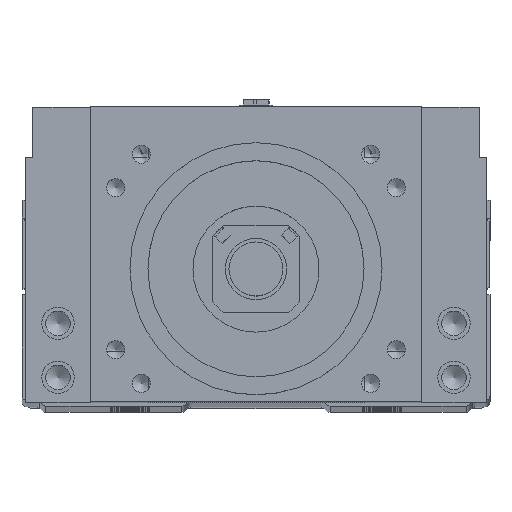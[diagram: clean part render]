
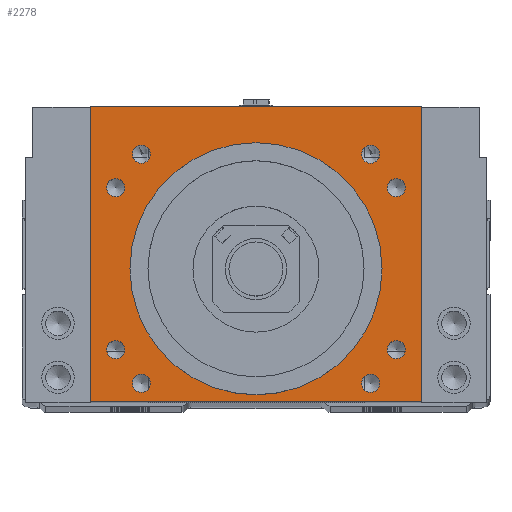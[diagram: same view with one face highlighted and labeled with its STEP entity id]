
A CAD part, top view. The second image highlights one B-rep face of the part: STEP entity #2278.
In plain terms, the highlighted planar face has unit normal (0, 0, 1).
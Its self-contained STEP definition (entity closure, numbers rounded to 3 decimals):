
#2278=ADVANCED_FACE('',(#6231,#6232,#6233,#6234,#6235,#6236,#6237,#6238,
#6239,#6240),#3222,.T.);
#3222=PLANE('',#16457);
#3821=LINE('',#22386,#5029);
#3826=LINE('',#22400,#5034);
#3831=LINE('',#22408,#5039);
#3836=LINE('',#22417,#5044);
#5029=VECTOR('',#18065,1.);
#5034=VECTOR('',#18076,1.);
#5039=VECTOR('',#18087,1.);
#5044=VECTOR('',#18094,1.);
#6231=FACE_BOUND('',#7085,.T.);
#6232=FACE_BOUND('',#7086,.T.);
#6233=FACE_BOUND('',#7087,.T.);
#6234=FACE_BOUND('',#7088,.T.);
#6235=FACE_BOUND('',#7089,.T.);
#6236=FACE_BOUND('',#7090,.T.);
#6237=FACE_BOUND('',#7091,.T.);
#6238=FACE_BOUND('',#7092,.T.);
#6239=FACE_BOUND('',#7093,.T.);
#6240=FACE_BOUND('',#7094,.T.);
#7085=EDGE_LOOP('',(#8558,#8559,#8560,#8561));
#7086=EDGE_LOOP('',(#8562));
#7087=EDGE_LOOP('',(#8563));
#7088=EDGE_LOOP('',(#8564));
#7089=EDGE_LOOP('',(#8565));
#7090=EDGE_LOOP('',(#8566));
#7091=EDGE_LOOP('',(#8567));
#7092=EDGE_LOOP('',(#8568));
#7093=EDGE_LOOP('',(#8569));
#7094=EDGE_LOOP('',(#8570));
#8558=ORIENTED_EDGE('',*,*,#13958,.T.);
#8559=ORIENTED_EDGE('',*,*,#13946,.T.);
#8560=ORIENTED_EDGE('',*,*,#13953,.T.);
#8561=ORIENTED_EDGE('',*,*,#13963,.T.);
#8562=ORIENTED_EDGE('',*,*,#13973,.F.);
#8563=ORIENTED_EDGE('',*,*,#13974,.T.);
#8564=ORIENTED_EDGE('',*,*,#13975,.T.);
#8565=ORIENTED_EDGE('',*,*,#13976,.F.);
#8566=ORIENTED_EDGE('',*,*,#13972,.F.);
#8567=ORIENTED_EDGE('',*,*,#13977,.T.);
#8568=ORIENTED_EDGE('',*,*,#13978,.T.);
#8569=ORIENTED_EDGE('',*,*,#13979,.T.);
#8570=ORIENTED_EDGE('',*,*,#13980,.T.);
#12438=VERTEX_POINT('',#22385);
#12439=VERTEX_POINT('',#22387);
#12443=VERTEX_POINT('',#22398);
#12445=VERTEX_POINT('',#22409);
#12451=VERTEX_POINT('',#22435);
#12452=VERTEX_POINT('',#22438);
#12453=VERTEX_POINT('',#22440);
#12454=VERTEX_POINT('',#22442);
#12455=VERTEX_POINT('',#22444);
#12456=VERTEX_POINT('',#22446);
#12457=VERTEX_POINT('',#22448);
#12458=VERTEX_POINT('',#22450);
#12459=VERTEX_POINT('',#22452);
#13946=EDGE_CURVE('',#12439,#12438,#3821,.T.);
#13953=EDGE_CURVE('',#12438,#12443,#3826,.T.);
#13958=EDGE_CURVE('',#12445,#12439,#3831,.T.);
#13963=EDGE_CURVE('',#12443,#12445,#3836,.T.);
#13972=EDGE_CURVE('',#12451,#12451,#15853,.T.);
#13973=EDGE_CURVE('',#12452,#12452,#15854,.T.);
#13974=EDGE_CURVE('',#12453,#12453,#15855,.T.);
#13975=EDGE_CURVE('',#12454,#12454,#15856,.T.);
#13976=EDGE_CURVE('',#12455,#12455,#15857,.T.);
#13977=EDGE_CURVE('',#12456,#12456,#15858,.T.);
#13978=EDGE_CURVE('',#12457,#12457,#15859,.T.);
#13979=EDGE_CURVE('',#12458,#12458,#15860,.T.);
#13980=EDGE_CURVE('',#12459,#12459,#15861,.T.);
#15853=CIRCLE('',#16447,35.015);
#15854=CIRCLE('',#16449,2.5);
#15855=CIRCLE('',#16450,2.5);
#15856=CIRCLE('',#16451,2.5);
#15857=CIRCLE('',#16452,2.5);
#15858=CIRCLE('',#16453,2.5);
#15859=CIRCLE('',#16454,2.5);
#15860=CIRCLE('',#16455,2.5);
#15861=CIRCLE('',#16456,2.5);
#16447=AXIS2_PLACEMENT_3D('',#22434,#18115,#18116);
#16449=AXIS2_PLACEMENT_3D('',#22437,#18119,#18120);
#16450=AXIS2_PLACEMENT_3D('',#22439,#18121,#18122);
#16451=AXIS2_PLACEMENT_3D('',#22441,#18123,#18124);
#16452=AXIS2_PLACEMENT_3D('',#22443,#18125,#18126);
#16453=AXIS2_PLACEMENT_3D('',#22445,#18127,#18128);
#16454=AXIS2_PLACEMENT_3D('',#22447,#18129,#18130);
#16455=AXIS2_PLACEMENT_3D('',#22449,#18131,#18132);
#16456=AXIS2_PLACEMENT_3D('',#22451,#18133,#18134);
#16457=AXIS2_PLACEMENT_3D('',#22453,#18135,#18136);
#18065=DIRECTION('',(-1.,0.,0.));
#18076=DIRECTION('',(0.,-1.,0.));
#18087=DIRECTION('',(0.,1.,0.));
#18094=DIRECTION('',(1.,0.,0.));
#18115=DIRECTION('',(0.,0.,1.));
#18116=DIRECTION('',(1.,0.,0.));
#18119=DIRECTION('',(0.,0.,1.));
#18120=DIRECTION('',(-1.,0.,0.));
#18121=DIRECTION('',(0.,0.,-1.));
#18122=DIRECTION('',(1.,0.,0.));
#18123=DIRECTION('',(0.,0.,-1.));
#18124=DIRECTION('',(1.,0.,0.));
#18125=DIRECTION('',(0.,0.,1.));
#18126=DIRECTION('',(-1.,0.,0.));
#18127=DIRECTION('',(0.,0.,-1.));
#18128=DIRECTION('',(1.,0.,0.));
#18129=DIRECTION('',(0.,0.,-1.));
#18130=DIRECTION('',(1.,0.,0.));
#18131=DIRECTION('',(0.,0.,-1.));
#18132=DIRECTION('',(1.,0.,0.));
#18133=DIRECTION('',(0.,0.,-1.));
#18134=DIRECTION('',(1.,0.,0.));
#18135=DIRECTION('',(0.,0.,1.));
#18136=DIRECTION('',(-1.,0.,0.));
#22385=CARTESIAN_POINT('',(-46.,83.,100.));
#22386=CARTESIAN_POINT('',(0.,83.,100.));
#22387=CARTESIAN_POINT('',(46.,83.,100.));
#22398=CARTESIAN_POINT('',(-46.,1.,100.));
#22400=CARTESIAN_POINT('',(-46.,38.,100.));
#22408=CARTESIAN_POINT('',(46.,38.,100.));
#22409=CARTESIAN_POINT('',(46.,1.,100.));
#22417=CARTESIAN_POINT('',(0.,1.,100.));
#22434=CARTESIAN_POINT('',(0.,38.,100.));
#22435=CARTESIAN_POINT('',(35.015,38.,100.));
#22437=CARTESIAN_POINT('',(-38.971,15.5,100.));
#22438=CARTESIAN_POINT('',(-41.471,15.5,100.));
#22439=CARTESIAN_POINT('',(38.971,60.5,100.));
#22440=CARTESIAN_POINT('',(41.471,60.5,100.));
#22441=CARTESIAN_POINT('',(38.971,15.5,100.));
#22442=CARTESIAN_POINT('',(41.471,15.5,100.));
#22443=CARTESIAN_POINT('',(-38.971,60.5,100.));
#22444=CARTESIAN_POINT('',(-41.471,60.5,100.));
#22445=CARTESIAN_POINT('',(-31.82,69.82,100.));
#22446=CARTESIAN_POINT('',(-29.32,69.82,100.));
#22447=CARTESIAN_POINT('',(-31.82,6.18,100.));
#22448=CARTESIAN_POINT('',(-29.32,6.18,100.));
#22449=CARTESIAN_POINT('',(31.82,6.18,100.));
#22450=CARTESIAN_POINT('',(34.32,6.18,100.));
#22451=CARTESIAN_POINT('',(31.82,69.82,100.));
#22452=CARTESIAN_POINT('',(34.32,69.82,100.));
#22453=CARTESIAN_POINT('',(0.,38.,100.));
